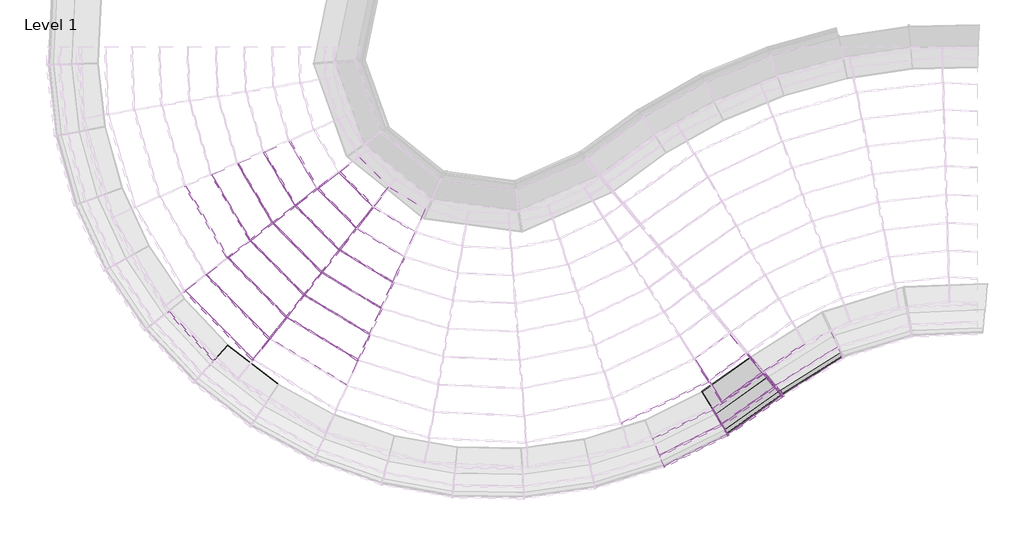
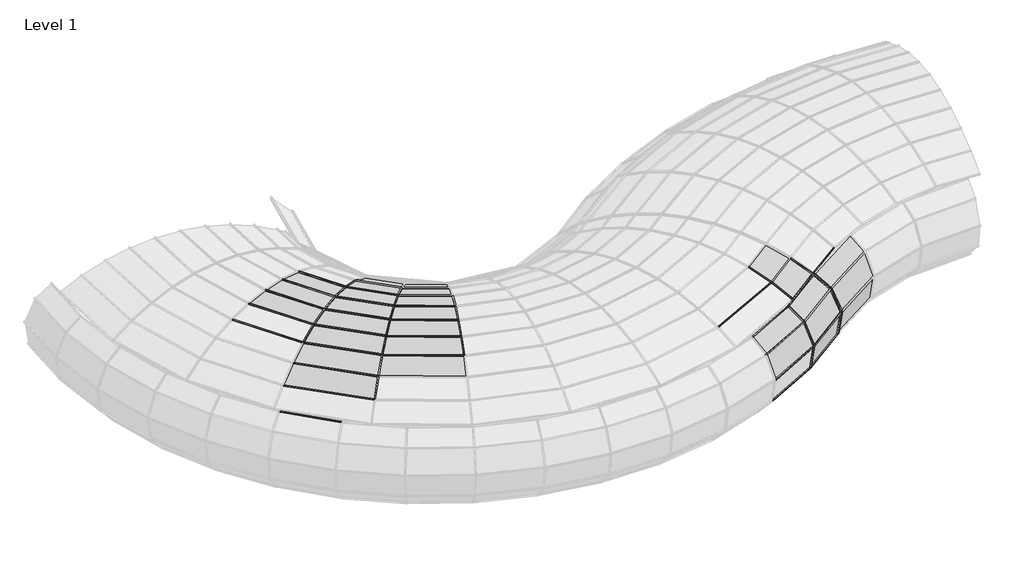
# One storey, part 4 of 23: 67 members, 30 plates.
"""IFC4 building model written with IfcOpenShell, lengths in millimetres."""

from ifc_helpers import new_model, si_unit, origin, place, context, project, spatial, transform, mapped, element, save
from components import member_1b20e6ad, member_6c4aaba8, member_c876edb5, member_782630c7, member_0ea93e7c, member_01d9c279, member_398607d0, member_12c77cbe, member_5ccaa950, member_f3e77526, member_9c203333, member_0c6c8d0c, member_86c07ba8, member_5c79e99c, member_0e8a41c0, member_5e0dc5e0, member_f532ae18, member_f7f5578b, member_ff5bcfe9, member_30a298c8, member_de981218, member_5080b2ef, member_d6b8231b, member_8c9da58c, member_391bee44, member_01ebdf2a, member_0cd36c09, member_e4cc2466, member_0cc87893, member_f8d2dede, member_1517f304, member_58eada01, member_30d53926, member_a8f221fd, member_4c50ae0e, member_afb76c1e, member_c358399a, member_0167d042, system_panel_glazed_acb349bd, system_panel_glazed_abe1d05c, system_panel_glazed_6222ca12, system_panel_glazed_39caee5c, system_panel_glazed_6419fff8, system_panel_glazed_2fe36e08, system_panel_glazed_fbc1d6e8, system_panel_glazed_3b9064ea, system_panel_glazed_5e26bc8e, system_panel_glazed_6d01105a, system_panel_glazed_f7be4813, system_panel_glazed_5b1ce257, system_panel_glazed_7bf4cd1b, system_panel_glazed_9f229a92, system_panel_glazed_a07c5774, system_panel_glazed_4fd85c75, system_panel_glazed_1256fb3b, system_panel_glazed_93969a75, system_panel_glazed_a392d462, system_panel_glazed_c7afbf4a

model = new_model("IFC4")

# Units and contexts
model_context = context("Model", 3, world=origin())
ifc_project = project(units=[si_unit("LENGTHUNIT", "METRE", prefix="MILLI")], contexts=[model_context])

# Site, building, storey
site = spatial("IfcSite", under=ifc_project)
building = spatial("IfcBuilding", under=site)
storey = spatial("IfcBuildingStorey", under=building, Name="Level 1", Elevation=0.0)

# Members
placement = place(None, origin())
member_shape = member_1b20e6ad(model_context)
element("IfcMember", 1, ObjectType="Rectangular Mullion : 1\" Square", at=placement, inside=storey, context=model_context, shape_type="MappedRepresentation", body=[
    mapped(member_shape, transform((-4215.1839746, -8172.5910384, 2085.6089632), x_axis=(0.5019403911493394, -0.7184828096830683, -0.4814958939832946), y_axis=(0.27575183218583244, -0.39471410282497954, 0.8764483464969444), z_axis=(-0.8197662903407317, -0.5726982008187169, 0.0))),
])
member_2_shape = member_6c4aaba8(model_context)
element("IfcMember", 2, ObjectType="Rectangular Mullion : 1\" Square", at=placement, inside=storey, context=model_context, shape_type="MappedRepresentation", body=[
    mapped(member_2_shape, transform((-15084.8340664, -7905.9935602, 2378.3537392), x_axis=(0.6432189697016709, 0.6374360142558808, 0.42419887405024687), y_axis=(-0.30130530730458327, -0.2985963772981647, 0.9055690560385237), z_axis=(0.7039065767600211, -0.7102925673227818, 0.0))),
])
element("IfcMember", 3, ObjectType="Rectangular Mullion : 1\" Square", at=placement, inside=storey, context=model_context, shape_type="MappedRepresentation", body=[
    mapped(member_2_shape, transform((-5404.7053993, -8378.6334389, 2378.3537392), x_axis=(-0.3921062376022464, 0.8162769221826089, 0.4241988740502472), y_axis=(0.18367569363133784, -0.382371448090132, 0.9055690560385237), z_axis=(0.9013966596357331, 0.43299429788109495, 0.0))),
])
member_3_shape = member_c876edb5(model_context)
element("IfcMember", 4, ObjectType="Rectangular Mullion : 1\" Square", at=placement, inside=storey, context=model_context, shape_type="MappedRepresentation", body=[
    mapped(member_3_shape, transform((-13708.1208201, -4258.3172566, 2676.0506073), x_axis=(0.8291768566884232, 0.48955345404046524, -0.2698205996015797), y_axis=(0.23234658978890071, 0.13717951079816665, 0.9629106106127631), z_axis=(0.5084100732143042, -0.8611150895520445, 0.0))),
])
element("IfcMember", 5, ObjectType="Rectangular Mullion : 1\" Square", at=placement, inside=storey, context=model_context, shape_type="MappedRepresentation", body=[
    mapped(member_3_shape, transform((-12878.9206564, -5099.4608771, 2676.0506073), x_axis=(0.6839482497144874, 0.6777991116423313, -0.26982059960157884), y_axis=(0.19165156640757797, 0.18992849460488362, 0.9629106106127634), z_axis=(0.7039065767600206, -0.7102925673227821, 0.0))),
])
member_4_shape = member_782630c7(model_context)
element("IfcMember", 6, ObjectType="Rectangular Mullion : 1\" Square", at=placement, inside=storey, context=model_context, shape_type="MappedRepresentation", body=[
    mapped(member_4_shape, transform((-12523.0938407, -4646.7506378, 2475.91846), x_axis=(0.6564501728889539, 0.650548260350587, -0.3819163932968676), y_axis=(0.2712723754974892, 0.26883346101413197, 0.9241968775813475), z_axis=(0.7039065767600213, -0.7102925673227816, 0.0))),
])
member_5_shape = member_0ea93e7c(model_context)
element("IfcMember", 7, ObjectType="Rectangular Mullion : 1\" Square", at=placement, inside=storey, context=model_context, shape_type="MappedRepresentation", body=[
    mapped(member_5_shape, transform((-15620.3561589, -5733.5771802, 2763.3769688), x_axis=(0.8438153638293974, 0.498196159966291, 0.19943976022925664), y_axis=(-0.1717405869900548, -0.10139718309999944, 0.97991008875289), z_axis=(0.5084100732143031, -0.8611150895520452, 0.0))),
])
element("IfcMember", 8, ObjectType="Rectangular Mullion : 1\" Square", at=placement, inside=storey, context=model_context, shape_type="MappedRepresentation", body=[
    mapped(member_5_shape, transform((-14371.3899343, -6998.2950689, 2763.3769688), x_axis=(0.6960228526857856, 0.6897651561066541, 0.1994397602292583), y_axis=(-0.14166057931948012, -0.1403869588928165, 0.9799100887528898), z_axis=(0.7039065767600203, -0.7102925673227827, 0.0))),
])
element("IfcMember", 9, ObjectType="Rectangular Mullion : 1\" Square", at=placement, inside=storey, context=model_context, shape_type="MappedRepresentation", body=[
    mapped(member_5_shape, transform((-12850.6090502, -7918.4328144, 2763.3769688), x_axis=(0.505796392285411, 0.8392817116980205, 0.19943976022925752), y_axis=(-0.1029440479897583, -0.17081785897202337, 0.9799100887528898), z_axis=(0.8564884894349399, -0.516166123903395, 0.0))),
])
member_6_shape = member_01d9c279(model_context)
element("IfcMember", 10, ObjectType="Rectangular Mullion : 1\" Square", at=placement, inside=storey, context=model_context, shape_type="MappedRepresentation", body=[
    mapped(member_6_shape, transform((-15142.6167304, -5365.0086162, 2850.17796), x_axis=(0.8582013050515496, 0.5066897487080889, 0.08219500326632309), y_axis=(-0.07077935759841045, -0.04178876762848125, 0.9966162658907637), z_axis=(0.5084100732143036, -0.8611150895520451, 0.0))),
])
element("IfcMember", 11, ObjectType="Rectangular Mullion : 1\" Square", at=placement, inside=storey, context=model_context, shape_type="MappedRepresentation", body=[
    mapped(member_6_shape, transform((-13998.5219063, -6523.9036887, 2850.17796), x_axis=(0.7078891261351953, 0.7015247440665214, 0.08219500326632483), y_axis=(-0.05838249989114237, -0.0578576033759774, 0.9966162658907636), z_axis=(0.7039065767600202, -0.7102925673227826, 0.0))),
])
element("IfcMember", 12, ObjectType="Rectangular Mullion : 1\" Square", at=placement, inside=storey, context=model_context, shape_type="MappedRepresentation", body=[
    mapped(member_6_shape, transform((-12605.3448127, -7367.1405129, 2850.17796), x_axis=(0.514419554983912, 0.8535903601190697, 0.08219500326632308), y_axis=(-0.04242627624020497, -0.07039907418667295, 0.9966162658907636), z_axis=(0.8564884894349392, -0.5161661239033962, 0.0))),
])
member_7_shape = member_398607d0(model_context)
element("IfcMember", 13, ObjectType="Rectangular Mullion : 1\" Square", at=placement, inside=storey, context=model_context, shape_type="MappedRepresentation", body=[
    mapped(member_7_shape, transform((-14660.0929393, -4992.7489906, 2864.5209769), x_axis=(0.8605516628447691, 0.5080774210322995, -0.03616863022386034), y_axis=(0.03114535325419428, 0.018388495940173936, 0.9993457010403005), z_axis=(0.5084100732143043, -0.8611150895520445, 0.0))),
])
element("IfcMember", 14, ObjectType="Rectangular Mullion : 1\" Square", at=placement, inside=storey, context=model_context, shape_type="MappedRepresentation", body=[
    mapped(member_7_shape, transform((-13621.9197593, -6044.7614752, 2864.5209769), x_axis=(0.7098278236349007, 0.7034460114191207, -0.03616863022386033), y_axis=(0.025690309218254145, 0.02545933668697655, 0.9993457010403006), z_axis=(0.7039065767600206, -0.7102925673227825, 0.0))),
])
element("IfcMember", 15, ObjectType="Rectangular Mullion : 1\" Square", at=placement, inside=storey, context=model_context, shape_type="MappedRepresentation", body=[
    mapped(member_7_shape, transform((-12357.6243554, -6810.3272471, 2864.5209769), x_axis=(0.5158283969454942, 0.8559280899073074, -0.03616863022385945), y_axis=(0.01866902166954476, 0.030978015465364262, 0.9993457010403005), z_axis=(0.8564884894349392, -0.5161661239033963, 0.0))),
])
member_8_shape = member_12c77cbe(model_context)
element("IfcMember", 16, ObjectType="Rectangular Mullion : 1\" Square", at=placement, inside=storey, context=model_context, shape_type="MappedRepresentation", body=[
    mapped(member_8_shape, transform((-14735.2193049, -7461.186774, 2605.3528615), x_axis=(0.674376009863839, 0.6683129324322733, 0.31396627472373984), y_axis=(-0.22300791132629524, -0.22100292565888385, 0.9494341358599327), z_axis=(0.7039065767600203, -0.7102925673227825, 0.0))),
])
member_9_shape = member_5ccaa950(model_context)
element("IfcMember", 17, ObjectType="Rectangular Mullion : 1\" Square", at=placement, inside=storey, context=model_context, shape_type="MappedRepresentation", body=[
    mapped(member_9_shape, transform((-14179.6493216, -4622.0941866, 2806.2019711), x_axis=(0.8508370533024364, 0.5023418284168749, -0.15404218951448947), y_axis=(0.1326480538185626, 0.07831660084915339, 0.9880642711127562), z_axis=(0.5084100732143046, -0.8611150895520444, 0.0))),
])
element("IfcMember", 18, ObjectType="Rectangular Mullion : 1\" Square", at=placement, inside=storey, context=model_context, shape_type="MappedRepresentation", body=[
    mapped(member_9_shape, transform((-13246.9411546, -5567.6848571, 2806.2019711), x_axis=(0.7018147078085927, 0.6955049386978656, -0.15404218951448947), y_axis=(0.10941502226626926, 0.10843131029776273, 0.9880642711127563), z_axis=(0.7039065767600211, -0.7102925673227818, 0.0))),
])
element("IfcMember", 19, ObjectType="Rectangular Mullion : 1\" Square", at=placement, inside=storey, context=model_context, shape_type="MappedRepresentation", body=[
    mapped(member_9_shape, transform((-12110.9718279, -6255.9144188, 2806.2019711), x_axis=(0.5100053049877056, 0.8462656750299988, -0.15404218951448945), y_axis=(0.07951135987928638, 0.1319353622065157, 0.9880642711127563), z_axis=(0.8564884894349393, -0.5161661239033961, 0.0))),
])
member_10_shape = member_f3e77526(model_context)
element("IfcMember", 20, ObjectType="Rectangular Mullion : 1\" Square", at=placement, inside=storey, context=model_context, shape_type="MappedRepresentation", body=[
    mapped(member_10_shape, transform((-5093.7531788, -8815.3437877, 2085.6089632), x_axis=(0.5180587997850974, -0.7073528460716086, -0.4809023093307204), y_axis=(0.28415032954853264, -0.3879763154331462, 0.8767741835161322), z_axis=(-0.8067674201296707, -0.5908691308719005, 0.0))),
])
member_11_shape = member_9c203333(model_context)
element("IfcMember", 21, ObjectType="Rectangular Mullion : 1\" Square", at=placement, inside=storey, context=model_context, shape_type="MappedRepresentation", body=[
    mapped(member_11_shape, transform((-15597.0346036, -7608.5313392, 0.0), x_axis=(0.5872043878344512, 0.7590506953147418, -0.28112817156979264), y_axis=(-0.17201710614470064, -0.2223581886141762, -0.9596702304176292), z_axis=(-0.790949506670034, 0.6118814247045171, 0.0))),
])
member_12_shape = member_0c6c8d0c(model_context)
element("IfcMember", 22, ObjectType="Rectangular Mullion : 1\" Square", at=placement, inside=storey, context=model_context, shape_type="MappedRepresentation", body=[
    mapped(member_12_shape, transform((-5531.5385686, -8580.1625048, 0.0), x_axis=(-0.5559696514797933, 0.7822560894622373, -0.28102163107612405), y_axis=(0.16280010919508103, -0.22906174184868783, -0.9597014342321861), z_axis=(-0.8151035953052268, -0.579315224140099, 0.0))),
])
member_13_shape = member_86c07ba8(model_context)
element("IfcMember", 23, ObjectType="Rectangular Mullion : 1\" Square", at=placement, inside=storey, context=model_context, shape_type="MappedRepresentation", body=[
    mapped(member_13_shape, transform((-5250.8506518, -9094.1593827, 170.8694653), x_axis=(0.37696829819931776, -0.7551815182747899, 0.536279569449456), y_axis=(0.2395150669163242, -0.4798211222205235, -0.8440404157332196), z_axis=(0.8947219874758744, 0.4466235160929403, 0.0))),
])
member_14_shape = member_5c79e99c(model_context)
element("IfcMember", 24, ObjectType="Rectangular Mullion : 1\" Square", at=placement, inside=storey, context=model_context, shape_type="MappedRepresentation", body=[
    mapped(member_14_shape, transform((-4158.497515, -8320.1995705, 170.8694653), x_axis=(0.4891002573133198, -0.6881700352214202, 0.535913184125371), y_axis=(0.31046266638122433, -0.4368247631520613, -0.8442730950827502), z_axis=(0.8151035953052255, 0.5793152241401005, 0.0))),
])
member_15_shape = member_0e8a41c0(model_context)
element("IfcMember", 25, ObjectType="Rectangular Mullion : 1\" Square", at=placement, inside=storey, context=model_context, shape_type="MappedRepresentation", body=[
    mapped(member_15_shape, transform((-5043.4831872, -9437.6892209, 629.7792003), x_axis=(0.18859937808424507, -0.37782159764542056, 0.9064662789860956), y_axis=(0.4048491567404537, -0.8110353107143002, -0.42227820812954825), z_axis=(0.8947219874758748, 0.44662351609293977, 0.0))),
])
member_16_shape = member_5e0dc5e0(model_context)
element("IfcMember", 26, ObjectType="Rectangular Mullion : 1\" Square", at=placement, inside=storey, context=model_context, shape_type="MappedRepresentation", body=[
    mapped(member_16_shape, transform((-3902.2464957, -8628.9866011, 629.7792003), x_axis=(0.24470601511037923, -0.34430435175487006, 0.906406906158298), y_axis=(0.5250953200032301, -0.7388155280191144, -0.42240563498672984), z_axis=(0.815103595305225, 0.5793152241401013, 0.0))),
])
member_17_shape = member_f532ae18(model_context)
element("IfcMember", 27, ObjectType="Rectangular Mullion : 1\" Square", at=placement, inside=storey, context=model_context, shape_type="MappedRepresentation", body=[
    mapped(member_17_shape, transform((-4996.319743, -9515.8212963, 1232.5089476), x_axis=(-0.059829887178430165, 0.11985736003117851, 0.9909866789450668), y_axis=(0.4425979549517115, -0.8866575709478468, 0.13396044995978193), z_axis=(0.8947219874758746, 0.4466235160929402, 0.0))),
])
member_18_shape = member_f7f5578b(model_context)
element("IfcMember", 28, ObjectType="Rectangular Mullion : 1\" Square", at=placement, inside=storey, context=model_context, shape_type="MappedRepresentation", body=[
    mapped(member_18_shape, transform((-3843.9650258, -8699.2168078, 1232.5089476), x_axis=(-0.07762778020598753, 0.10922323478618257, 0.9909814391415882), y_axis=(0.5740906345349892, -0.8077525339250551, 0.13399920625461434), z_axis=(0.8151035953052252, 0.5793152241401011, 0.0))),
])
member_19_shape = member_ff5bcfe9(model_context)
element("IfcMember", 29, ObjectType="Rectangular Mullion : 1\" Square", at=placement, inside=storey, context=model_context, shape_type="MappedRepresentation", body=[
    mapped(member_19_shape, transform((-5124.1822406, -9304.0012636, 1789.6405438), x_axis=(-0.2891436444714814, 0.5792421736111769, 0.7621512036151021), y_axis=(0.3403946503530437, -0.681913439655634, 0.6473990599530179), z_axis=(0.8947219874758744, 0.44662351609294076, 0.0))),
])
member_20_shape = member_30a298c8(model_context)
element("IfcMember", 30, ObjectType="Rectangular Mullion : 1\" Square", at=placement, inside=storey, context=model_context, shape_type="MappedRepresentation", body=[
    mapped(member_20_shape, transform((-4001.969057, -8508.8191432, 1789.6405438), x_axis=(-0.3751633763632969, 0.5278594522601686, 0.761982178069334), y_axis=(0.4414278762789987, -0.6210944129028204, 0.6475979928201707), z_axis=(0.8151035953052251, 0.5793152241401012, 0.0))),
])
member_21_shape = member_de981218(model_context)
element("IfcMember", 31, ObjectType="Rectangular Mullion : 1\" Square", at=placement, inside=storey, context=model_context, shape_type="MappedRepresentation", body=[
    mapped(member_21_shape, transform((-4256.7096697, -8201.8521794, 2085.6089632), x_axis=(-0.46477816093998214, 0.6539485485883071, 0.5969359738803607), y_axis=(0.3458140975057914, -0.4865646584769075, 0.8022888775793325), z_axis=(0.8151035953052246, 0.5793152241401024, 0.0))),
])
member_22_shape = member_5080b2ef(model_context)
element("IfcMember", 32, ObjectType="Rectangular Mullion : 1\" Square", at=placement, inside=storey, context=model_context, shape_type="MappedRepresentation", body=[
    mapped(member_22_shape, transform((-15906.1595532, -7910.4658742, 2085.6089632), x_axis=(0.5857596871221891, 0.5480549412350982, 0.5970941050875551), y_axis=(-0.4360087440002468, -0.4079433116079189, 0.8021711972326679), z_axis=(0.6832144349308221, -0.7302178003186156, 0.0))),
])
element("IfcMember", 33, ObjectType="Rectangular Mullion : 1\" Square", at=placement, inside=storey, context=model_context, shape_type="MappedRepresentation", body=[
    mapped(member_22_shape, transform((-5330.3274303, -8962.4962748, 2085.6089632), x_axis=(-0.35826852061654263, 0.7177202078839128, 0.5970941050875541), y_axis=(0.2666762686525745, -0.5342332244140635, 0.8021711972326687), z_axis=(0.8947219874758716, 0.44662351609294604, 0.0))),
])
member_23_shape = member_d6b8231b(model_context)
element("IfcMember", 34, ObjectType="Rectangular Mullion : 1\" Square", at=placement, inside=storey, context=model_context, shape_type="MappedRepresentation", body=[
    mapped(member_23_shape, transform((-5541.8903842, -8587.5198081, 0.0), x_axis=(0.8561160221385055, 0.5167836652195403, 0.0), y_axis=(0.14485326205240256, -0.23996733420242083, -0.9599131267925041), z_axis=(-0.49606742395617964, 0.8217970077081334, -0.280297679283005))),
])
element("IfcMember", 35, ObjectType="Rectangular Mullion : 1\" Square", at=placement, inside=storey, context=model_context, shape_type="MappedRepresentation", body=[
    mapped(member_23_shape, transform((-15607.0796623, -7600.7604451, 0.0), x_axis=(0.73945297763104, -0.6732082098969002, 0.0), y_axis=(-0.18869869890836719, -0.20726695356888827, -0.9599131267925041), z_axis=(0.6462213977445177, 0.7098106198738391, -0.2802976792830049))),
])
member_24_shape = member_8c9da58c(model_context)
element("IfcMember", 36, ObjectType="Rectangular Mullion : 1\" Square", at=placement, inside=storey, context=model_context, shape_type="MappedRepresentation", body=[
    mapped(member_24_shape, transform((-5239.4876826, -9088.487264, 170.8694653), x_axis=(0.8561160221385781, 0.51678366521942, 0.0), y_axis=(0.389037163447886, -0.6444881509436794, -0.6582439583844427), z_axis=(-0.3401697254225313, 0.5635331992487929, -0.7528046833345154))),
])
element("IfcMember", 37, ObjectType="Rectangular Mullion : 1\" Square", at=placement, inside=storey, context=model_context, shape_type="MappedRepresentation", body=[
    mapped(member_24_shape, transform((-5032.120218, -9432.0171023, 629.7792003), x_axis=(0.8561160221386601, 0.5167836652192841, 0.0), y_axis=(0.5109594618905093, -0.8464675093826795, -0.14971033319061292), z_axis=(-0.07736785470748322, 0.12816941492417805, -0.9887299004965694))),
])
member_25_shape = member_391bee44(model_context)
element("IfcMember", 38, ObjectType="Rectangular Mullion : 1\" Square", at=placement, inside=storey, context=model_context, shape_type="MappedRepresentation", body=[
    mapped(member_25_shape, transform((-4984.9567737, -9510.1491776, 1232.5089476), x_axis=(0.8561160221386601, 0.5167836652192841, 0.0), y_axis=(0.4723039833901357, -0.782429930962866, 0.40587233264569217), z_axis=(0.20974819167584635, -0.3474738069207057, -0.9139297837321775))),
])
member_26_shape = member_01ebdf2a(model_context)
element("IfcMember", 39, ObjectType="Rectangular Mullion : 1\" Square", at=placement, inside=storey, context=model_context, shape_type="MappedRepresentation", body=[
    mapped(member_26_shape, transform((-5112.8192714, -9298.3291449, 1789.6405438), x_axis=(0.8561160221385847, 0.5167836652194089, 0.0), y_axis=(0.30793072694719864, -0.5101253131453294, 0.8030883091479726), z_axis=(0.41502291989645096, -0.6875367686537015, -0.5958600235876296))),
])
member_27_shape = member_0cd36c09(model_context)
element("IfcMember", 40, ObjectType="Rectangular Mullion : 1\" Square", at=placement, inside=storey, context=model_context, shape_type="MappedRepresentation", body=[
    mapped(member_27_shape, transform((-5393.2576617, -8373.1344113, 2378.3537392), x_axis=(0.8410448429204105, 0.5409654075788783, 0.0), y_axis=(0.20144139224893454, -0.31318313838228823, 0.9280828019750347), z_axis=(0.5020606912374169, -0.7805592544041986, -0.3723738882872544))),
])
element("IfcMember", 41, ObjectType="Rectangular Mullion : 1\" Square", at=placement, inside=storey, context=model_context, shape_type="MappedRepresentation", body=[
    mapped(member_27_shape, transform((-14173.1925136, -4633.0303482, 2806.2019711), x_axis=(0.6108312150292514, -0.79176083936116, 0.0), y_axis=(0.16904323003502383, 0.13041423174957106, 0.9769424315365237), z_axis=(-0.7735047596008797, -0.5967469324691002, 0.213502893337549))),
])
element("IfcMember", 42, ObjectType="Rectangular Mullion : 1\" Square", at=placement, inside=storey, context=model_context, shape_type="MappedRepresentation", body=[
    mapped(member_27_shape, transform((-13701.6640122, -4269.2534182, 2676.0506073), x_axis=(0.6108312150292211, -0.7917608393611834, 0.0), y_axis=(0.25993569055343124, 0.20053635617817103, 0.9445732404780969), z_axis=(-0.7478761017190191, -0.5769748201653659, 0.3283007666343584))),
])
element("IfcMember", 43, ObjectType="Rectangular Mullion : 1\" Square", at=placement, inside=storey, context=model_context, shape_type="MappedRepresentation", body=[
    mapped(member_27_shape, transform((-13238.0015411, -5576.7055727, 2806.2019711), x_axis=(0.786212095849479, -0.617956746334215, 0.0), y_axis=(0.131935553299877, 0.16785855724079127, 0.9769424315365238), z_axis=(-0.6037081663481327, -0.7680839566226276, 0.21350289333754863))),
])
element("IfcMember", 44, ObjectType="Rectangular Mullion : 1\" Square", at=placement, inside=storey, context=model_context, shape_type="MappedRepresentation", body=[
    mapped(member_27_shape, transform((-12869.9810429, -5108.4815927, 2676.0506073), x_axis=(0.7862120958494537, -0.6179567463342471, 0.0), y_axis=(0.20287567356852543, 0.258114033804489, 0.9445732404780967), z_axis=(-0.5837054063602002, -0.7426349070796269, 0.3283007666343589))),
])
element("IfcMember", 45, ObjectType="Rectangular Mullion : 1\" Square", at=placement, inside=storey, context=model_context, shape_type="MappedRepresentation", body=[
    mapped(member_27_shape, transform((-12100.0944241, -6262.4697286, 2806.2019711), x_axis=(0.9136605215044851, -0.40647810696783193, 0.0), y_axis=(0.08678425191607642, 0.19506916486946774, 0.9769424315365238), z_axis=(-0.3971057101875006, -0.8925937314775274, 0.2135028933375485))),
])
element("IfcMember", 46, ObjectType="Rectangular Mullion : 1\" Square", at=placement, inside=storey, context=model_context, shape_type="MappedRepresentation", body=[
    mapped(member_27_shape, transform((-15613.899351, -5744.5133419, 2763.3769688), x_axis=(0.6108312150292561, -0.7917608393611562, 0.0), y_axis=(-0.11273888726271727, -0.08697630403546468, 0.9898106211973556), z_axis=(-0.7836932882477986, -0.6046072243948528, -0.1423900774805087))),
])
element("IfcMember", 47, ObjectType="Rectangular Mullion : 1\" Square", at=placement, inside=storey, context=model_context, shape_type="MappedRepresentation", body=[
    mapped(member_27_shape, transform((-15075.8944528, -7915.0142758, 2378.3537392), x_axis=(0.7862120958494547, -0.617956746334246, 0.0), y_axis=(-0.2301109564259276, -0.29276485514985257, 0.9280828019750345), z_axis=(-0.5735150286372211, -0.7296699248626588, -0.37237388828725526))),
])
element("IfcMember", 48, ObjectType="Rectangular Mullion : 1\" Square", at=placement, inside=storey, context=model_context, shape_type="MappedRepresentation", body=[
    mapped(member_27_shape, transform((-14726.2796914, -7470.2074896, 2605.3528615), x_axis=(0.7862120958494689, -0.617956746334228, 0.0), y_axis=(-0.160190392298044, -0.20380653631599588, 0.9658167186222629), z_axis=(-0.5968329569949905, -0.7593367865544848, -0.2592258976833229))),
])
element("IfcMember", 49, ObjectType="Rectangular Mullion : 1\" Square", at=placement, inside=storey, context=model_context, shape_type="MappedRepresentation", body=[
    mapped(member_27_shape, transform((-14362.4503208, -7007.3157845, 2763.3769688), x_axis=(0.7862120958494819, -0.6179567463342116, 0.0), y_axis=(-0.08799090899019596, -0.11194880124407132, 0.9898106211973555), z_axis=(-0.6116601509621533, -0.7782010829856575, -0.14239007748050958))),
])
element("IfcMember", 50, ObjectType="Rectangular Mullion : 1\" Square", at=placement, inside=storey, context=model_context, shape_type="MappedRepresentation", body=[
    mapped(member_27_shape, transform((-12839.7316464, -7924.9881242, 2763.3769688), x_axis=(0.9136605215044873, -0.4064781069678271, 0.0), y_axis=(-0.0578784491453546, -0.13009619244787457, 0.9898106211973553), z_axis=(-0.4023363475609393, -0.9043508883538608, -0.14239007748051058))),
])
element("IfcMember", 51, ObjectType="Rectangular Mullion : 1\" Square", at=placement, inside=storey, context=model_context, shape_type="MappedRepresentation", body=[
    mapped(member_27_shape, transform((-15136.1599225, -5375.9447779, 2850.17796), x_axis=(0.6108312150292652, -0.7917608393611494, 0.0), y_axis=(-0.018629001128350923, -0.014371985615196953, 0.9997231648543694), z_axis=(-0.7915416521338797, -0.6106621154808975, -0.023528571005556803))),
])
element("IfcMember", 52, ObjectType="Rectangular Mullion : 1\" Square", at=placement, inside=storey, context=model_context, shape_type="MappedRepresentation", body=[
    mapped(member_27_shape, transform((-13989.5822928, -6532.9244043, 2850.17796), x_axis=(0.7862120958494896, -0.6179567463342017, 0.0), y_axis=(-0.014539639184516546, -0.018498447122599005, 0.9997231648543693), z_axis=(-0.6177856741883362, -0.785994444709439, -0.023528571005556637))),
])
element("IfcMember", 53, ObjectType="Rectangular Mullion : 1\" Square", at=placement, inside=storey, context=model_context, shape_type="MappedRepresentation", body=[
    mapped(member_27_shape, transform((-12594.4674089, -7373.6958226, 2850.17796), x_axis=(0.9136605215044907, -0.40647810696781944, 0.0), y_axis=(-0.009563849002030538, -0.02149712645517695, 0.9997231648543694), z_axis=(-0.4063655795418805, -0.9134075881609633, -0.023528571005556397))),
])
element("IfcMember", 54, ObjectType="Rectangular Mullion : 1\" Square", at=placement, inside=storey, context=model_context, shape_type="MappedRepresentation", body=[
    mapped(member_27_shape, transform((-14653.6361314, -5003.6851523, 2864.5209769), x_axis=(0.610831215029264, -0.7917608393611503, 0.0), y_axis=(0.07574590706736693, 0.05843679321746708, 0.9954133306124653), z_axis=(-0.7881292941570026, -0.6080295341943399, 0.09566766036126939))),
])
element("IfcMember", 55, ObjectType="Rectangular Mullion : 1\" Square", at=placement, inside=storey, context=model_context, shape_type="MappedRepresentation", body=[
    mapped(member_27_shape, transform((-13612.9801458, -6053.7821909, 2864.5209769), x_axis=(0.7862120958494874, -0.6179567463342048, 0.0), y_axis=(0.05911847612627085, 0.07521507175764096, 0.995413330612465), z_axis=(-0.6151223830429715, -0.7826060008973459, 0.09566766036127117))),
])
element("IfcMember", 56, ObjectType="Rectangular Mullion : 1\" Square", at=placement, inside=storey, context=model_context, shape_type="MappedRepresentation", body=[
    mapped(member_27_shape, transform((-12346.7469516, -6816.8825569, 2864.5209769), x_axis=(0.9136605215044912, -0.40647810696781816, 0.0), y_axis=(0.038886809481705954, 0.08740776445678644, 0.995413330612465), z_axis=(-0.40461372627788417, -0.9094698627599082, 0.09566766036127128))),
])
member_28_shape = member_e4cc2466(model_context)
element("IfcMember", 57, ObjectType="Rectangular Mullion : 1\" Square", at=placement, inside=storey, context=model_context, shape_type="MappedRepresentation", body=[
    mapped(member_28_shape, transform((-5103.9991251, -8822.8478257, 2085.6089632), x_axis=(0.8410448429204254, 0.5409654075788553, 0.0), y_axis=(0.2597847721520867, -0.4038902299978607, 0.8771456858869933), z_axis=(0.4745054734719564, -0.7377188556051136, -0.4802243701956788))),
])
member_29_shape = member_0cc87893(model_context)
element("IfcMember", 58, ObjectType="Rectangular Mullion : 1\" Square", at=placement, inside=storey, context=model_context, shape_type="MappedRepresentation", body=[
    mapped(member_29_shape, transform((-4236.0060384, -8187.1375727, 2085.6089632), x_axis=(-0.7968732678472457, -0.6008891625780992, -0.06265149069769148), y_axis=(0.31932702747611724, -0.5069562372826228, 0.8006407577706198), z_axis=(-0.5128579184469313, 0.6180029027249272, 0.5958600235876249))),
])
member_30_shape = member_f8d2dede(model_context)
element("IfcMember", 59, ObjectType="Rectangular Mullion : 1\" Square", at=placement, inside=storey, context=model_context, shape_type="MappedRepresentation", body=[
    mapped(member_30_shape, transform((-4137.7938837, -8305.4849639, 170.8694653), x_axis=(-0.7755966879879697, -0.6302403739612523, 0.03531074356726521), y_axis=(0.15057140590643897, -0.2390436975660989, -0.9592634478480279), z_axis=(0.6130073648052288, -0.7386847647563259, 0.28029767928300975))),
])
member_31_shape = member_1517f304(model_context)
element("IfcMember", 60, ObjectType="Rectangular Mullion : 1\" Square", at=placement, inside=storey, context=model_context, shape_type="MappedRepresentation", body=[
    mapped(member_31_shape, transform((-3881.5428644, -8614.2719944, 629.7792003), x_axis=(-0.8130968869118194, -0.5785149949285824, 0.06475996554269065), y_axis=(0.4027052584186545, -0.6393255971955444, -0.6550505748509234), z_axis=(0.4203592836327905, -0.5065404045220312, 0.7528046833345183))),
])
member_32_shape = member_58eada01(model_context)
element("IfcMember", 61, ObjectType="Rectangular Mullion : 1\" Square", at=placement, inside=storey, context=model_context, shape_type="MappedRepresentation", body=[
    mapped(member_32_shape, transform((-3823.2613945, -8684.5022011, 1232.5089476), x_axis=(-0.8444299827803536, -0.5353189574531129, 0.01927739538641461), y_axis=(0.5270649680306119, -0.8367562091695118, -0.1484640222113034), z_axis=(0.09560608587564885, -0.11520703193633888, 0.9887299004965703))),
])
member_33_shape = member_30d53926(model_context)
element("IfcMember", 62, ObjectType="Rectangular Mullion : 1\" Square", at=placement, inside=storey, context=model_context, shape_type="MappedRepresentation", body=[
    mapped(member_33_shape, transform((-3981.2654257, -8494.1045365, 1789.6405438), x_axis=(-0.8336003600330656, -0.5502464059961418, -0.04836664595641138), y_axis=(0.487780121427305, -0.774388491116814, 0.402980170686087), z_axis=(-0.25919296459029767, 0.3123321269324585, 0.9139297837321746))),
])
member_34_shape = member_a8f221fd(model_context)
element("IfcMember", 63, ObjectType="Rectangular Mullion : 1\" Square", at=placement, inside=storey, context=model_context, shape_type="MappedRepresentation", body=[
    mapped(member_34_shape, transform((-4236.0060384, -8187.1375727, 2085.6089632), x_axis=(0.7781316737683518, 0.6275822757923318, 0.02552617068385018), y_axis=(0.28415032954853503, -0.38797631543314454, 0.8767741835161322), z_axis=(0.5601514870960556, -0.6749924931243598, -0.48022437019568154))),
])
member_35_shape = member_4c50ae0e(model_context)
element("IfcMember", 64, ObjectType="Rectangular Mullion : 1\" Square", at=placement, inside=storey, context=model_context, shape_type="MappedRepresentation", body=[
    mapped(member_35_shape, transform((-4137.7938837, -8305.4849639, 170.8694653), x_axis=(0.795389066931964, 0.6049641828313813, -0.037075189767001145), y_axis=(0.4366397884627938, -0.6143575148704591, -0.6571990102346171), z_axis=(-0.4203592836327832, 0.5065404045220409, -0.7528046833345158))),
])
member_36_shape = member_afb76c1e(model_context)
element("IfcMember", 65, ObjectType="Rectangular Mullion : 1\" Square", at=placement, inside=storey, context=model_context, shape_type="MappedRepresentation", body=[
    mapped(member_36_shape, transform((-3881.5428644, -8614.2719944, 629.7792003), x_axis=(0.8140849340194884, 0.5806404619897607, -0.0110622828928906), y_axis=(0.5728221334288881, -0.8059677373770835, -0.149301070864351), z_axis=(-0.09560608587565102, 0.11520703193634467, -0.9887299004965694))),
])
member_37_shape = member_c358399a(model_context)
element("IfcMember", 66, ObjectType="Rectangular Mullion : 1\" Square", at=placement, inside=storey, context=model_context, shape_type="MappedRepresentation", body=[
    mapped(member_37_shape, transform((-3823.2613945, -8684.5022011, 1232.5089476), x_axis=(0.8076137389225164, 0.589059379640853, 0.027732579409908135), y_axis=(0.5296971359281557, -0.7452903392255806, 0.4049237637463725), z_axis=(0.2591929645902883, -0.31233212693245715, -0.9139297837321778))),
])
member_38_shape = member_0167d042(model_context)
element("IfcMember", 67, ObjectType="Rectangular Mullion : 1\" Square", at=placement, inside=storey, context=model_context, shape_type="MappedRepresentation", body=[
    mapped(member_38_shape, transform((-3981.2654257, -8494.1045365, 1789.6405438), x_axis=(0.7857412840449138, 0.6175170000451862, 0.035824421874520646), y_axis=(0.345814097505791, -0.4865646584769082, 0.8022888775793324), z_axis=(0.5128579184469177, -0.6180029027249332, -0.5958600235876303))),
])

# Plates
system_panel_glazed_shape = system_panel_glazed_acb349bd(model_context)
element("IfcPlate", 68, ObjectType="System Panel : Glazed", at=placement, inside=storey, context=model_context, shape_type="MappedRepresentation", body=[
    mapped(system_panel_glazed_shape, transform((-5017.7544258, -8244.9087272, 7.1379494), x_axis=(0.8151035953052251, 0.5793152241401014, 0.0), y_axis=(-0.16280010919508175, 0.22906174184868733, 0.9597014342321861), z_axis=(0.5559696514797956, -0.7822560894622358, 0.2810216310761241))),
])
system_panel_glazed_2_shape = system_panel_glazed_abe1d05c(model_context)
element("IfcPlate", 69, ObjectType="System Panel : Glazed", at=placement, inside=storey, context=model_context, shape_type="MappedRepresentation", body=[
    mapped(system_panel_glazed_2_shape, transform((-4688.9877518, -8707.4724272, 180.4416724), x_axis=(0.8151035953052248, 0.5793152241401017, 0.0), y_axis=(-0.43663978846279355, 0.6143575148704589, 0.6571990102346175), z_axis=(0.3807253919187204, -0.5356852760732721, 0.7537170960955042))),
])
system_panel_glazed_3_shape = system_panel_glazed_6222ca12(model_context)
element("IfcPlate", 70, ObjectType="System Panel : Glazed", at=placement, inside=storey, context=model_context, shape_type="MappedRepresentation", body=[
    mapped(system_panel_glazed_3_shape, transform((-4460.9093197, -9028.3689674, 642.3368559), x_axis=(0.8151035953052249, 0.5793152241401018, 0.0), y_axis=(-0.572822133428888, 0.8059677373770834, 0.1493010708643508), z_axis=(0.08649238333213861, -0.12169583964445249, 0.9887917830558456))),
])
system_panel_glazed_4_shape = system_panel_glazed_39caee5c(model_context)
element("IfcPlate", 71, ObjectType="System Panel : Glazed", at=placement, inside=storey, context=model_context, shape_type="MappedRepresentation", body=[
    mapped(system_panel_glazed_4_shape, transform((-5669.9484141, -9846.3347376, 1244.1219817), x_axis=(0.8947219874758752, 0.4466235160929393, 0.0), y_axis=(-0.40839796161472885, 0.8181446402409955, -0.4047844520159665), z_axis=(-0.18078625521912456, 0.36216954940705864, 0.9144121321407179))),
])
system_panel_glazed_5_shape = system_panel_glazed_6419fff8(model_context)
element("IfcPlate", 72, ObjectType="System Panel : Glazed", at=placement, inside=storey, context=model_context, shape_type="MappedRepresentation", body=[
    mapped(system_panel_glazed_5_shape, transform((-4412.2665213, -9096.8143381, 1244.1211983), x_axis=(0.8151035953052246, 0.5793152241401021, 0.0), y_axis=(-0.5296971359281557, 0.7452903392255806, -0.4049237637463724), z_axis=(-0.2345785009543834, 0.33005481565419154, 0.9143504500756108))),
])
system_panel_glazed_6_shape = system_panel_glazed_2fe36e08(model_context)
element("IfcPlate", 73, ObjectType="System Panel : Glazed", at=placement, inside=storey, context=model_context, shape_type="MappedRepresentation", body=[
    mapped(system_panel_glazed_6_shape, transform((-5782.3516062, -9621.1571467, 1797.2236389), x_axis=(0.894721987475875, 0.44662351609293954, 0.0), y_axis=(-0.2666762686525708, 0.5342332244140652, -0.8021711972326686), z_axis=(-0.35826852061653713, 0.7177202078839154, 0.597094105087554))),
])
system_panel_glazed_7_shape = system_panel_glazed_fbc1d6e8(model_context)
element("IfcPlate", 74, ObjectType="System Panel : Glazed", at=placement, inside=storey, context=model_context, shape_type="MappedRepresentation", body=[
    mapped(system_panel_glazed_7_shape, transform((-4558.1302852, -8891.5969884, 1797.2216306), x_axis=(0.8151035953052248, 0.5793152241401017, 0.0), y_axis=(-0.34581409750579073, 0.486564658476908, -0.8022888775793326), z_axis=(-0.464778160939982, 0.6539485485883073, 0.5969359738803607))),
])
system_panel_glazed_8_shape = system_panel_glazed_3b9064ea(model_context)
element("IfcPlate", 75, ObjectType="System Panel : Glazed", at=placement, inside=storey, context=model_context, shape_type="MappedRepresentation", body=[
    mapped(system_panel_glazed_8_shape, transform((-4688.2914805, -8490.7832527, 2097.8238818), x_axis=(0.8067674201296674, 0.5908691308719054, 0.0), y_axis=(-0.28415032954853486, 0.38797631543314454, -0.8767741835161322), z_axis=(-0.5180587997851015, 0.7073528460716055, 0.48090230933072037))),
])
system_panel_glazed_9_shape = system_panel_glazed_5e26bc8e(model_context)
element("IfcPlate", 76, ObjectType="System Panel : Glazed", at=placement, inside=storey, context=model_context, shape_type="MappedRepresentation", body=[
    mapped(system_panel_glazed_9_shape, transform((-15793.5862167, -7174.0847737, 2383.1142391), x_axis=(0.7039065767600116, -0.7102925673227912, 0.0), y_axis=(0.26624784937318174, 0.2638541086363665, -0.9270885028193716), z_axis=(0.6585040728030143, 0.6525836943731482, 0.37484251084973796))),
])
system_panel_glazed_10_shape = system_panel_glazed_6d01105a(model_context)
element("IfcPlate", 77, ObjectType="System Panel : Glazed", at=placement, inside=storey, context=model_context, shape_type="MappedRepresentation", body=[
    mapped(system_panel_glazed_10_shape, transform((-4997.4596896, -8068.6495661, 2383.0903636), x_axis=(0.8067674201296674, 0.5908691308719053, 0.0), y_axis=(-0.2203720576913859, 0.30089403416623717, -0.927846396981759), z_axis=(-0.5482357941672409, 0.7485562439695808, 0.3729625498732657))),
])
system_panel_glazed_11_shape = system_panel_glazed_f7be4813(model_context)
element("IfcPlate", 78, ObjectType="System Panel : Glazed", at=placement, inside=storey, context=model_context, shape_type="MappedRepresentation", body=[
    mapped(system_panel_glazed_11_shape, transform((-15394.4609872, -6778.5479387, 2608.668686), x_axis=(0.7039065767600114, -0.7102925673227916, 0.0), y_axis=(0.18544924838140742, 0.18378193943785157, -0.9653148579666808), z_axis=(0.6856559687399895, 0.6794914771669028, 0.2610885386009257))),
])
element("IfcPlate", 79, ObjectType="System Panel : Glazed", at=placement, inside=storey, context=model_context, shape_type="MappedRepresentation", body=[
    mapped(system_panel_glazed_11_shape, transform((-13896.3371365, -7956.0619267, 2608.668686), x_axis=(0.8564884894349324, -0.5161661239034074, 0.0), y_axis=(0.13476505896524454, 0.2236193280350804, -0.9653148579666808), z_axis=(0.49826282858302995, 0.8267810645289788, 0.26108853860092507))),
])
system_panel_glazed_12_shape = system_panel_glazed_5b1ce257(model_context)
element("IfcPlate", 80, ObjectType="System Panel : Glazed", at=placement, inside=storey, context=model_context, shape_type="MappedRepresentation", body=[
    mapped(system_panel_glazed_12_shape, transform((-14979.2474364, -6367.0674268, 2765.1989775), x_axis=(0.7039065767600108, -0.7102925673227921, 0.0), y_axis=(0.10190230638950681, 0.10098613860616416, -0.9896553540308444), z_axis=(0.7029448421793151, 0.6966249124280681, 0.1434652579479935))),
])
element("IfcPlate", 81, ObjectType="System Panel : Glazed", at=placement, inside=storey, context=model_context, shape_type="MappedRepresentation", body=[
    mapped(system_panel_glazed_12_shape, transform((-13594.6034862, -7455.3870734, 2765.1989775), x_axis=(0.8564884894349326, -0.516166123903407, 0.0), y_axis=(0.07405190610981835, 0.12287634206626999, -0.9896553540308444), z_axis=(0.510826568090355, 0.8476284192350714, 0.1434652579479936))),
])
system_panel_glazed_13_shape = system_panel_glazed_7bf4cd1b(model_context)
element("IfcPlate", 82, ObjectType="System Panel : Glazed", at=placement, inside=storey, context=model_context, shape_type="MappedRepresentation", body=[
    mapped(system_panel_glazed_13_shape, transform((-15539.2957159, -4668.1642606, 2850.4790751), x_axis=(0.5084100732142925, -0.8611150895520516, 0.0), y_axis=(0.020416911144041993, 0.01205432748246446, -0.9997188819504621), z_axis=(0.8608730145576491, 0.5082671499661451, 0.023709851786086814))),
])
element("IfcPlate", 83, ObjectType="System Panel : Glazed", at=placement, inside=storey, context=model_context, shape_type="MappedRepresentation", body=[
    mapped(system_panel_glazed_13_shape, transform((-14553.8529279, -5945.4974907, 2850.4790751), x_axis=(0.7039065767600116, -0.7102925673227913, 0.0), y_axis=(0.01684093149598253, 0.016689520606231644, -0.9997188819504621), z_axis=(0.7100928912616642, 0.7037086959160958, 0.02370985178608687))),
])
element("IfcPlate", 84, ObjectType="System Panel : Glazed", at=placement, inside=storey, context=model_context, shape_type="MappedRepresentation", body=[
    mapped(system_panel_glazed_13_shape, transform((-13285.4713839, -6942.4357675, 2850.4790751), x_axis=(0.8564884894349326, -0.5161661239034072, 0.0), y_axis=(0.012238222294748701, 0.020307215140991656, -0.9997188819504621), z_axis=(0.5160210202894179, 0.8562477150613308, 0.023709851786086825))),
])
system_panel_glazed_14_shape = system_panel_glazed_9f229a92(model_context)
element("IfcPlate", 85, ObjectType="System Panel : Glazed", at=placement, inside=storey, context=model_context, shape_type="MappedRepresentation", body=[
    mapped(system_panel_glazed_14_shape, transform((-15018.5678088, -4360.7218332, 2863.296718), x_axis=(0.5084100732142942, -0.8611150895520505, 0.0), y_axis=(-0.08301006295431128, -0.049009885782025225, -0.9953428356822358), z_axis=(0.8571047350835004, 0.5060423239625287, -0.09639833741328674))),
])
element("IfcPlate", 86, ObjectType="System Panel : Glazed", at=placement, inside=storey, context=model_context, shape_type="MappedRepresentation", body=[
    mapped(system_panel_glazed_14_shape, transform((-14124.3294339, -5519.8356913, 2863.296718), x_axis=(0.7039065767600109, -0.7102925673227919, 0.0), y_axis=(-0.06847102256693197, -0.06785542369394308, -0.9953428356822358), z_axis=(0.7069846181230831, 0.7006283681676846, -0.09639833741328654))),
])
element("IfcPlate", 87, ObjectType="System Panel : Glazed", at=placement, inside=storey, context=model_context, shape_type="MappedRepresentation", body=[
    mapped(system_panel_glazed_14_shape, transform((-12973.3387681, -6424.5056279, 2863.296718), x_axis=(0.8564884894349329, -0.5161661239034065, 0.0), y_axis=(-0.04975755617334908, -0.08256406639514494, -0.9953428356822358), z_axis=(0.513762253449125, 0.8524996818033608, -0.0963983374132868))),
])
system_panel_glazed_15_shape = system_panel_glazed_a07c5774(model_context)
element("IfcPlate", 88, ObjectType="System Panel : Glazed", at=placement, inside=storey, context=model_context, shape_type="MappedRepresentation", body=[
    mapped(system_panel_glazed_15_shape, transform((-14500.24212, -4054.6976971, 2803.4705448), x_axis=(0.5084100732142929, -0.8611150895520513, 0.0), y_axis=(-0.18520255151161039, -0.10934524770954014, -0.9765979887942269), z_axis=(0.8409632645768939, 0.496512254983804, -0.21507293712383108))),
])
element("IfcPlate", 89, ObjectType="System Panel : Glazed", at=placement, inside=storey, context=model_context, shape_type="MappedRepresentation", body=[
    mapped(system_panel_glazed_15_shape, transform((-13696.7874146, -5096.1375519, 2803.4705448), x_axis=(0.7039065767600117, -0.7102925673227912, 0.0), y_axis=(-0.15276470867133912, -0.15139125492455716, -0.9765979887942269), z_axis=(0.6936702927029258, 0.6874337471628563, -0.21507293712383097))),
])
element("IfcPlate", 90, ObjectType="System Panel : Glazed", at=placement, inside=storey, context=model_context, shape_type="MappedRepresentation", body=[
    mapped(system_panel_glazed_15_shape, transform((-12662.6460802, -5908.9647999, 2803.4705448), x_axis=(0.8564884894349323, -0.5161661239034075, 0.0), y_axis=(-0.11101336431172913, -0.1842074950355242, -0.9765979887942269), z_axis=(0.5040867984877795, 0.8364449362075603, -0.21507293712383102))),
])
system_panel_glazed_16_shape = system_panel_glazed_4fd85c75(model_context)
element("IfcPlate", 91, ObjectType="System Panel : Glazed", at=placement, inside=storey, context=model_context, shape_type="MappedRepresentation", body=[
    mapped(system_panel_glazed_16_shape, transform((-13277.3088992, -4680.4304201, 2671.8525455), x_axis=(0.7039065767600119, -0.7102925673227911, 0.0), y_axis=(-0.23479150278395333, -0.23268057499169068, -0.943786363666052), z_axis=(0.6703644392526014, 0.6643374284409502, -0.33055604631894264))),
])
element("IfcPlate", 92, ObjectType="System Panel : Glazed", at=placement, inside=storey, context=model_context, shape_type="MappedRepresentation", body=[
    mapped(system_panel_glazed_16_shape, transform((-12357.813101, -5403.1471459, 2671.8525455), x_axis=(0.8564884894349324, -0.5161661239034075, 0.0), y_axis=(-0.17062183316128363, -0.28311744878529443, -0.943786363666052), z_axis=(0.4871505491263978, 0.8083421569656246, -0.3305560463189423))),
])
system_panel_glazed_17_shape = system_panel_glazed_1256fb3b(model_context)
element("IfcPlate", 93, ObjectType="System Panel : Glazed", at=placement, inside=storey, context=model_context, shape_type="MappedRepresentation", body=[
    mapped(system_panel_glazed_17_shape, transform((-12871.8610025, -4278.6277628, 2470.3158265), x_axis=(0.7039065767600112, -0.7102925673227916, 0.0), y_axis=(-0.3133471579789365, -0.31052996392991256, -0.8974322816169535), z_axis=(0.6374394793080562, 0.6317084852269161, -0.4411522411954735))),
])
element("IfcPlate", 94, ObjectType="System Panel : Glazed", at=placement, inside=storey, context=model_context, shape_type="MappedRepresentation", body=[
    mapped(system_panel_glazed_17_shape, transform((-12063.1761037, -4914.2479619, 2470.3158265), x_axis=(0.8564884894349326, -0.5161661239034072, 0.0), y_axis=(-0.2277078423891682, -0.3778418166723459, -0.8974322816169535), z_axis=(0.463224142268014, 0.7686404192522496, -0.4411522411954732))),
])
system_panel_glazed_18_shape = system_panel_glazed_93969a75(model_context)
element("IfcPlate", 95, ObjectType="System Panel : Glazed", at=placement, inside=storey, context=model_context, shape_type="MappedRepresentation", body=[
    mapped(system_panel_glazed_18_shape, transform((-3221.7676452, -8200.9140733, 642.3384564), x_axis=(0.8461332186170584, 0.5329714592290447, 0.0), y_axis=(-0.5270649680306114, 0.8367562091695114, 0.14846402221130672), z_axis=(0.07912708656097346, -0.12562034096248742, 0.9889178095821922))),
])
system_panel_glazed_19_shape = system_panel_glazed_a392d462(model_context)
element("IfcPlate", 96, ObjectType="System Panel : Glazed", at=placement, inside=storey, context=model_context, shape_type="MappedRepresentation", body=[
    mapped(system_panel_glazed_19_shape, transform((-3177.2670222, -8271.5478297, 1244.1320982), x_axis=(0.8461332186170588, 0.532971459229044, 0.0), y_axis=(-0.48778012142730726, 0.7743884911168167, -0.40298017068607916), z_axis=(-0.2147769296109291, 0.34097490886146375, 0.915208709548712))),
])
system_panel_glazed_20_shape = system_panel_glazed_c7afbf4a(model_context)
element("IfcPlate", 97, ObjectType="System Panel : Glazed", at=placement, inside=storey, context=model_context, shape_type="MappedRepresentation", body=[
    mapped(system_panel_glazed_20_shape, transform((-3310.6816383, -8059.6928514, 1797.2496815), x_axis=(0.8461332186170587, 0.5329714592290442, 0.0), y_axis=(-0.3193270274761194, 0.5069562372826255, -0.8006407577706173), z_axis=(-0.42671867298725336, 0.6774487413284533, 0.5991447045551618))),
])

save(model, "model.ifc")
